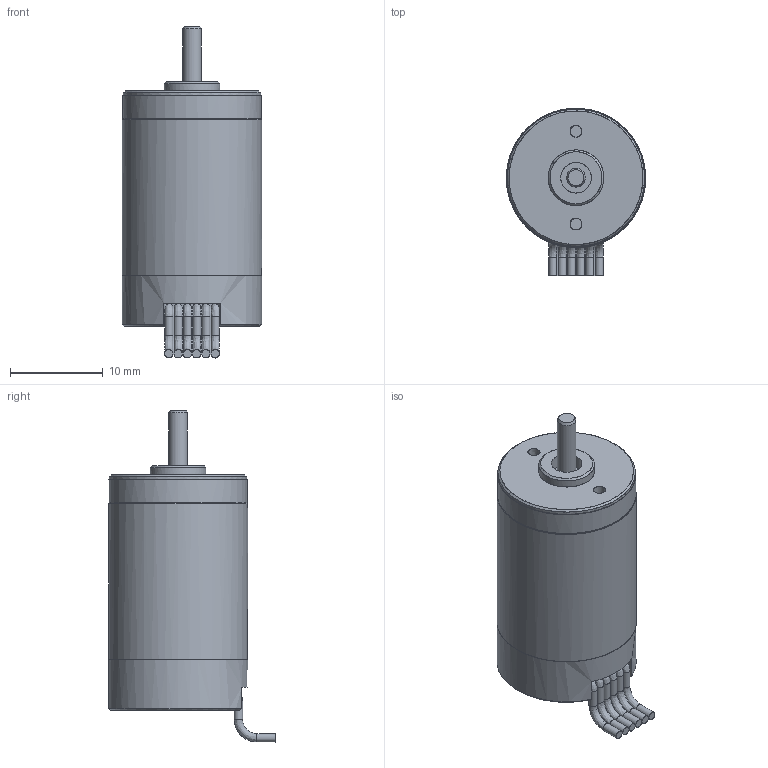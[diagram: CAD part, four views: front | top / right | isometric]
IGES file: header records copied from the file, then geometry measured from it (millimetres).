
Global section: file name: D:\Daten-Huge\PLM_Export\A_Internet_Modelle\Motoren\15xx\1525U_BRC\1525U_BRC.igs; native system: NX V7.5; preprocessor: SIEMENS PLM Software NX 7.5; author: DR. FRITZ FAULHABER GmbH & Co. KG; organization: DR. FRITZ FAULHABER GmbH & Co. KG; date: 20131021.145134; units: millimetre
Bounding box: 15 x 18 x 35.77 mm (x, y, z)
Surface area: 1792.2 mm2 (no closed solid volume)
Topology: 0 solids, 0 shells, 113 faces, 658 edges, 642 vertices
Faces by surface type: bspline 113
